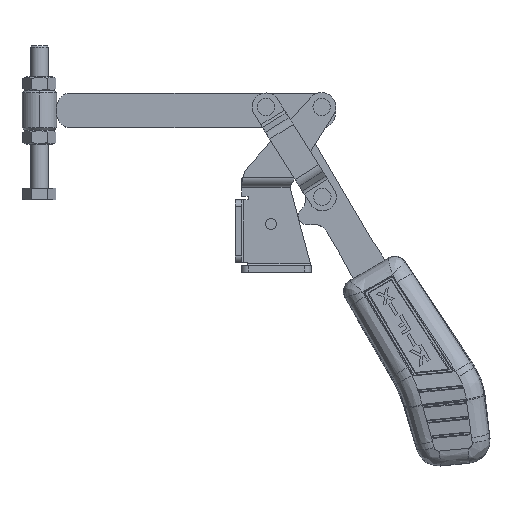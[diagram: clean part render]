
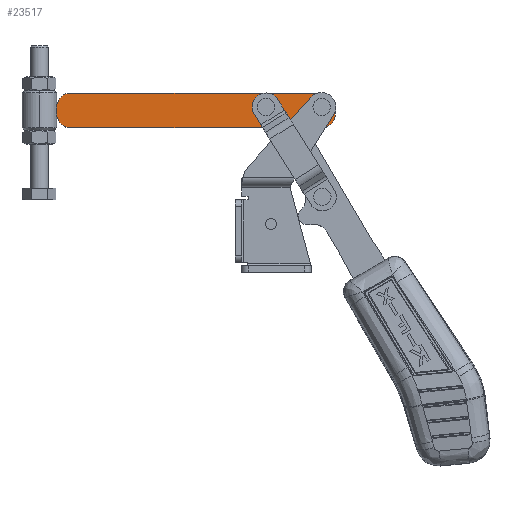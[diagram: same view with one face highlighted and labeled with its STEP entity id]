
A CAD part, top view. The second image highlights one B-rep face of the part: STEP entity #23517.
In plain terms, the highlighted planar face has unit normal (0, 0, 1) as drawn and (-1, 0, 0) by its records, which use the part's own axes.
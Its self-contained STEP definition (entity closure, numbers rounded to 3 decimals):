
#923 = EDGE_LOOP ( 'NONE', ( #13853, #16006 ) ) ;
#968 = CIRCLE ( 'NONE', #6876, 6.35 ) ;
#1119 = EDGE_LOOP ( 'NONE', ( #13614, #4271, #21390, #6152, #8275, #25133, #23780, #22723 ) ) ;
#1231 = EDGE_CURVE ( 'NONE', #25311, #19339, #12426, .T. ) ;
#1273 = VECTOR ( 'NONE', #16299, 1000. ) ;
#1433 = AXIS2_PLACEMENT_3D ( 'NONE', #3316, #17212, #5296 ) ;
#1915 = FACE_OUTER_BOUND ( 'NONE', #1119, .T. ) ;
#2010 = EDGE_CURVE ( 'NONE', #25311, #22232, #11796, .T. ) ;
#2055 = CIRCLE ( 'NONE', #19558, 3.2 ) ;
#2262 = EDGE_CURVE ( 'NONE', #5411, #22232, #3357, .T. ) ;
#2308 = CARTESIAN_POINT ( 'NONE',  ( -6.35, 0., 121.15 ) ) ;
#2516 = FACE_BOUND ( 'NONE', #2592, .T. ) ;
#2551 = CIRCLE ( 'NONE', #15368, 6.35 ) ;
#2592 = EDGE_LOOP ( 'NONE', ( #20180, #6389 ) ) ;
#2979 = CARTESIAN_POINT ( 'NONE',  ( -6.35, 6.35, 127.5 ) ) ;
#3316 = CARTESIAN_POINT ( 'NONE',  ( -6.35, 6.35, 6.35 ) ) ;
#3357 = LINE ( 'NONE', #23105, #23205 ) ;
#3501 = DIRECTION ( 'NONE',  ( -1., 0., 0. ) ) ;
#3589 = CARTESIAN_POINT ( 'NONE',  ( -6.35, 0., 127.5 ) ) ;
#3613 = VERTEX_POINT ( 'NONE', #13268 ) ;
#4271 = ORIENTED_EDGE ( 'NONE', *, *, #5822, .T. ) ;
#4362 = EDGE_CURVE ( 'NONE', #17943, #9886, #18656, .T. ) ;
#4583 = CARTESIAN_POINT ( 'NONE',  ( -6.35, 6.35, 31.75 ) ) ;
#4740 = DIRECTION ( 'NONE',  ( 1., 0., 0. ) ) ;
#5021 = PLANE ( 'NONE',  #23067 ) ;
#5118 = CARTESIAN_POINT ( 'NONE',  ( -6.35, 6.35, 3.15 ) ) ;
#5156 = AXIS2_PLACEMENT_3D ( 'NONE', #12408, #12358, #12327 ) ;
#5206 = CARTESIAN_POINT ( 'NONE',  ( -6.35, 9.525, 6.35 ) ) ;
#5296 = DIRECTION ( 'NONE',  ( 0., 0., -1. ) ) ;
#5411 = VERTEX_POINT ( 'NONE', #10711 ) ;
#5822 = EDGE_CURVE ( 'NONE', #5411, #6383, #12747, .T. ) ;
#6006 = CARTESIAN_POINT ( 'NONE',  ( -6.35, 6.35, 34.95 ) ) ;
#6152 = ORIENTED_EDGE ( 'NONE', *, *, #15154, .T. ) ;
#6298 = CARTESIAN_POINT ( 'NONE',  ( -6.35, 9.525, 0. ) ) ;
#6383 = VERTEX_POINT ( 'NONE', #20152 ) ;
#6389 = ORIENTED_EDGE ( 'NONE', *, *, #4362, .T. ) ;
#6876 = AXIS2_PLACEMENT_3D ( 'NONE', #15417, #3501, #17402 ) ;
#8275 = ORIENTED_EDGE ( 'NONE', *, *, #19383, .F. ) ;
#8559 = EDGE_CURVE ( 'NONE', #9886, #17943, #2055, .T. ) ;
#9009 = DIRECTION ( 'NONE',  ( -1., 0., 0. ) ) ;
#9583 = DIRECTION ( 'NONE',  ( 0., -1., 0. ) ) ;
#9886 = VERTEX_POINT ( 'NONE', #20882 ) ;
#10680 = AXIS2_PLACEMENT_3D ( 'NONE', #18860, #16786, #15555 ) ;
#10711 = CARTESIAN_POINT ( 'NONE',  ( -6.35, 6.35, 0. ) ) ;
#10752 = CARTESIAN_POINT ( 'NONE',  ( -6.35, 6.35, 121.15 ) ) ;
#11796 = CIRCLE ( 'NONE', #20821, 6.35 ) ;
#11855 = FACE_BOUND ( 'NONE', #923, .T. ) ;
#12122 = VECTOR ( 'NONE', #23053, 1000. ) ;
#12327 = DIRECTION ( 'NONE',  ( 0., 0., -1. ) ) ;
#12358 = DIRECTION ( 'NONE',  ( 1., 0., 0. ) ) ;
#12408 = CARTESIAN_POINT ( 'NONE',  ( -6.35, 6.35, 31.75 ) ) ;
#12426 = LINE ( 'NONE', #16357, #1273 ) ;
#12747 = CIRCLE ( 'NONE', #10680, 6.35 ) ;
#12759 = LINE ( 'NONE', #13255, #12122 ) ;
#12792 = DIRECTION ( 'NONE',  ( 0., 0., 1. ) ) ;
#13255 = CARTESIAN_POINT ( 'NONE',  ( -6.35, 0., 0. ) ) ;
#13268 = CARTESIAN_POINT ( 'NONE',  ( -6.35, 9.525, 127.5 ) ) ;
#13567 = VECTOR ( 'NONE', #9583, 1000. ) ;
#13614 = ORIENTED_EDGE ( 'NONE', *, *, #2262, .F. ) ;
#13788 = DIRECTION ( 'NONE',  ( 1., 0., 0. ) ) ;
#13850 = VERTEX_POINT ( 'NONE', #5118 ) ;
#13853 = ORIENTED_EDGE ( 'NONE', *, *, #16302, .T. ) ;
#15154 = EDGE_CURVE ( 'NONE', #17516, #23016, #2551, .T. ) ;
#15222 = DIRECTION ( 'NONE',  ( -1., 0., 0. ) ) ;
#15231 = CARTESIAN_POINT ( 'NONE',  ( -6.35, 6.35, 9.55 ) ) ;
#15368 = AXIS2_PLACEMENT_3D ( 'NONE', #10752, #24580, #12792 ) ;
#15417 = CARTESIAN_POINT ( 'NONE',  ( -6.35, 9.525, 121.15 ) ) ;
#15555 = DIRECTION ( 'NONE',  ( 0., 0., 1. ) ) ;
#15680 = DIRECTION ( 'NONE',  ( 0., 0., -1. ) ) ;
#16006 = ORIENTED_EDGE ( 'NONE', *, *, #16747, .T. ) ;
#16299 = DIRECTION ( 'NONE',  ( 0., 0., 1. ) ) ;
#16302 = EDGE_CURVE ( 'NONE', #13850, #16322, #19294, .T. ) ;
#16322 = VERTEX_POINT ( 'NONE', #15231 ) ;
#16357 = CARTESIAN_POINT ( 'NONE',  ( -6.35, 15.875, 0. ) ) ;
#16673 = CARTESIAN_POINT ( 'NONE',  ( -6.35, 6.35, 6.35 ) ) ;
#16747 = EDGE_CURVE ( 'NONE', #16322, #13850, #17107, .T. ) ;
#16786 = DIRECTION ( 'NONE',  ( -1., 0., 0. ) ) ;
#16806 = CARTESIAN_POINT ( 'NONE',  ( -6.35, 15.875, 6.35 ) ) ;
#16937 = CARTESIAN_POINT ( 'NONE',  ( -6.35, 0., 127.5 ) ) ;
#17107 = CIRCLE ( 'NONE', #23483, 3.2 ) ;
#17212 = DIRECTION ( 'NONE',  ( 1., 0., 0. ) ) ;
#17402 = DIRECTION ( 'NONE',  ( 0., 0., 1. ) ) ;
#17516 = VERTEX_POINT ( 'NONE', #2308 ) ;
#17781 = EDGE_CURVE ( 'NONE', #3613, #19339, #968, .T. ) ;
#17943 = VERTEX_POINT ( 'NONE', #6006 ) ;
#18656 = CIRCLE ( 'NONE', #5156, 3.2 ) ;
#18860 = CARTESIAN_POINT ( 'NONE',  ( -6.35, 6.35, 6.35 ) ) ;
#19294 = CIRCLE ( 'NONE', #1433, 3.2 ) ;
#19339 = VERTEX_POINT ( 'NONE', #19388 ) ;
#19383 = EDGE_CURVE ( 'NONE', #3613, #23016, #23416, .T. ) ;
#19388 = CARTESIAN_POINT ( 'NONE',  ( -6.35, 15.875, 121.15 ) ) ;
#19558 = AXIS2_PLACEMENT_3D ( 'NONE', #4583, #13788, #15680 ) ;
#20152 = CARTESIAN_POINT ( 'NONE',  ( -6.35, 0., 6.35 ) ) ;
#20180 = ORIENTED_EDGE ( 'NONE', *, *, #8559, .T. ) ;
#20821 = AXIS2_PLACEMENT_3D ( 'NONE', #5206, #15222, #24133 ) ;
#20882 = CARTESIAN_POINT ( 'NONE',  ( -6.35, 6.35, 28.55 ) ) ;
#21077 = DIRECTION ( 'NONE',  ( 0., 1., 0. ) ) ;
#21390 = ORIENTED_EDGE ( 'NONE', *, *, #24514, .F. ) ;
#22232 = VERTEX_POINT ( 'NONE', #6298 ) ;
#22723 = ORIENTED_EDGE ( 'NONE', *, *, #2010, .T. ) ;
#22879 = DIRECTION ( 'NONE',  ( 0., 0., 1. ) ) ;
#23016 = VERTEX_POINT ( 'NONE', #2979 ) ;
#23053 = DIRECTION ( 'NONE',  ( 0., 0., -1. ) ) ;
#23067 = AXIS2_PLACEMENT_3D ( 'NONE', #16937, #9009, #22879 ) ;
#23105 = CARTESIAN_POINT ( 'NONE',  ( -6.35, 0., 0. ) ) ;
#23205 = VECTOR ( 'NONE', #21077, 1000. ) ;
#23416 = LINE ( 'NONE', #3589, #13567 ) ;
#23483 = AXIS2_PLACEMENT_3D ( 'NONE', #16673, #4740, #23808 ) ;
#23517 = ADVANCED_FACE ( 'NONE', ( #2516, #11855, #1915 ), #5021, .T. ) ;
#23780 = ORIENTED_EDGE ( 'NONE', *, *, #1231, .F. ) ;
#23808 = DIRECTION ( 'NONE',  ( 0., 0., -1. ) ) ;
#24133 = DIRECTION ( 'NONE',  ( 0., 0., 1. ) ) ;
#24514 = EDGE_CURVE ( 'NONE', #17516, #6383, #12759, .T. ) ;
#24580 = DIRECTION ( 'NONE',  ( -1., 0., 0. ) ) ;
#25133 = ORIENTED_EDGE ( 'NONE', *, *, #17781, .T. ) ;
#25311 = VERTEX_POINT ( 'NONE', #16806 ) ;
